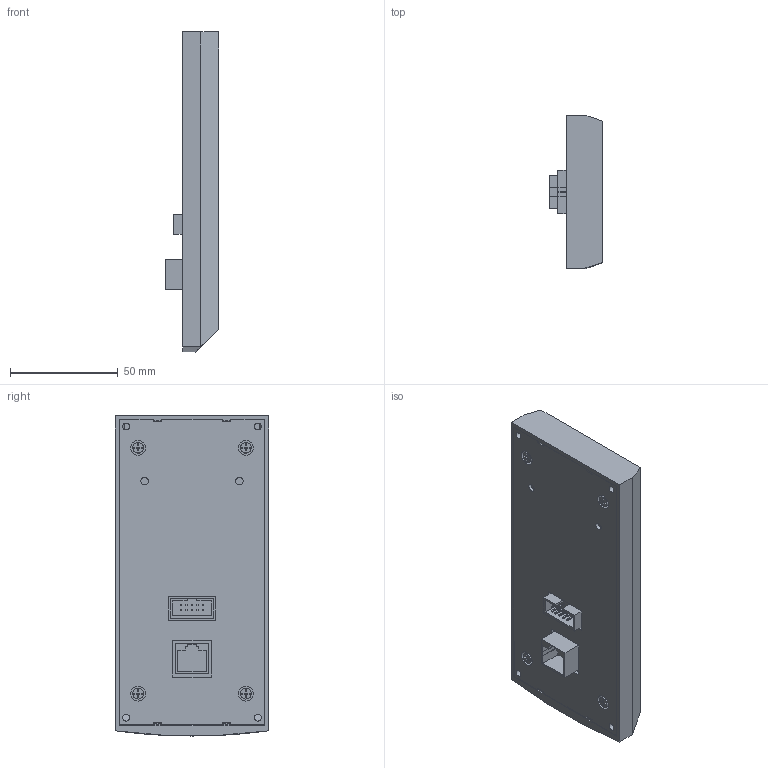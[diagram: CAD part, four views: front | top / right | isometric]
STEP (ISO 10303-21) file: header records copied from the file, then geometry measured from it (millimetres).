
FILE_DESCRIPTION(('STEP AP203'), '1');
FILE_NAME('Ïàíåëü óïðàâëåíèÿ Ñáîðêà _ SNI', '', ('UNSPECIFIED'), ('UNSPECIFIED'), 'C3D Converter', 'C3D Toolkit', '');
FILE_SCHEMA(('CONFIG_CONTROL_DESIGN'));
Length unit declared in the file: millimetre
Products named in the file (3): SNI
Assembly tree (2 placements, depth 2):
  SNI
    SNI
    SNI
Bounding box: 24.8 x 71 x 148.4 mm (x, y, z)
Volume: 148184.6 mm3; surface area: 56582.8 mm2
Topology: 2 solids, 2 shells, 443 faces, 1147 edges, 761 vertices
Faces by surface type: plane 353, cylinder 46, extrusion 44
Full cylindrical faces by diameter (mm): 3.2 x4, 3.5 x2, 5 x4, 6.9 x4, 9 x11
Entity records: 14589 total; most frequent: CARTESIAN_POINT 2619, ORIENTED_EDGE 2244, DIRECTION 1967, EDGE_CURVE 1122, VECTOR 985, LINE 941, VERTEX_POINT 761, EDGE_LOOP 537
